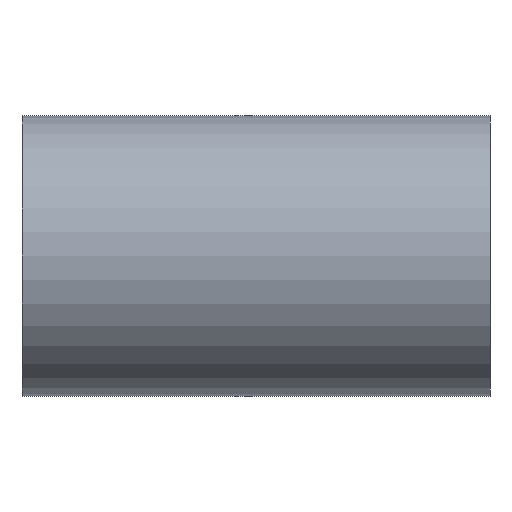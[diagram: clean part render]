
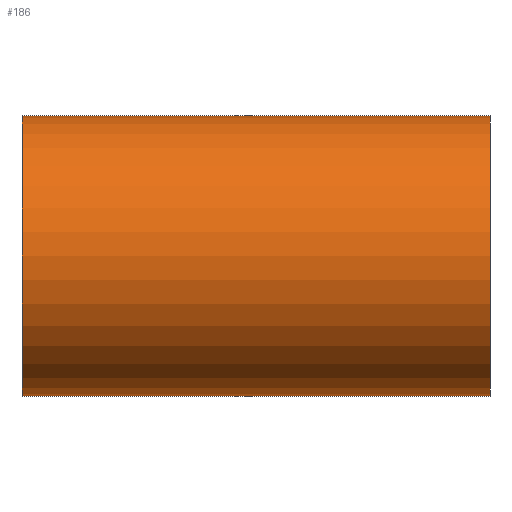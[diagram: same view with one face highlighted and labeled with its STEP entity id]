
A CAD part, front view. The second image highlights one B-rep face of the part: STEP entity #186.
In plain terms, the highlighted cylindrical face has radius 600 mm (diameter 1200 mm), a partial arc.
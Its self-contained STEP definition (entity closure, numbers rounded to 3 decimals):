
#186=ADVANCED_FACE('',(#374),#375,.T.);
#374=FACE_OUTER_BOUND('',#589,.T.);
#375=CYLINDRICAL_SURFACE('',#590,600.0);
#589=EDGE_LOOP('',(#1079,#1080,#1081,#1082));
#590=AXIS2_PLACEMENT_3D('',#1083,#1084,#1085);
#1079=ORIENTED_EDGE('',*,*,#1167,.T.);
#1080=ORIENTED_EDGE('',*,*,#1373,.F.);
#1081=ORIENTED_EDGE('',*,*,#1169,.T.);
#1082=ORIENTED_EDGE('',*,*,#1374,.F.);
#1083=CARTESIAN_POINT('',(0.0,0.0,0.0));
#1084=DIRECTION('',(1.0,0.0,0.0));
#1085=DIRECTION('',(0.0,0.0,-1.0));
#1167=EDGE_CURVE('',#1378,#1379,#1380,.T.);
#1169=EDGE_CURVE('',#1383,#1381,#1384,.T.);
#1373=EDGE_CURVE('',#1383,#1379,#1687,.T.);
#1374=EDGE_CURVE('',#1378,#1381,#1688,.T.);
#1378=VERTEX_POINT('',#1692);
#1379=VERTEX_POINT('',#1693);
#1380=LINE('',#1694,#1695);
#1381=VERTEX_POINT('',#1696);
#1383=VERTEX_POINT('',#1698);
#1384=LINE('',#1699,#1700);
#1687=CIRCLE('',#2063,600.0);
#1688=CIRCLE('',#2064,600.0);
#1692=CARTESIAN_POINT('',(-1000.0,0.0,-600.0));
#1693=CARTESIAN_POINT('',(1000.0,0.0,-600.0));
#1694=CARTESIAN_POINT('',(0.0,0.,-600.0));
#1695=VECTOR('',#2067,1.0);
#1696=CARTESIAN_POINT('',(-1000.0,0.,600.0));
#1698=CARTESIAN_POINT('',(1000.0,0.,600.0));
#1699=CARTESIAN_POINT('',(0.0,0.,600.0));
#1700=VECTOR('',#2071,1.0);
#2063=AXIS2_PLACEMENT_3D('',#2402,#2403,#2404);
#2064=AXIS2_PLACEMENT_3D('',#2405,#2406,#2407);
#2067=DIRECTION('',(1.0,0.0,0.0));
#2071=DIRECTION('',(-1.0,-0.0,-0.0));
#2402=CARTESIAN_POINT('',(1000.0,0.0,0.0));
#2403=DIRECTION('',(1.0,0.0,0.0));
#2404=DIRECTION('',(0.0,0.0,-1.0));
#2405=CARTESIAN_POINT('',(-1000.0,0.0,0.0));
#2406=DIRECTION('',(-1.0,0.0,0.0));
#2407=DIRECTION('',(0.0,0.0,-1.0));
